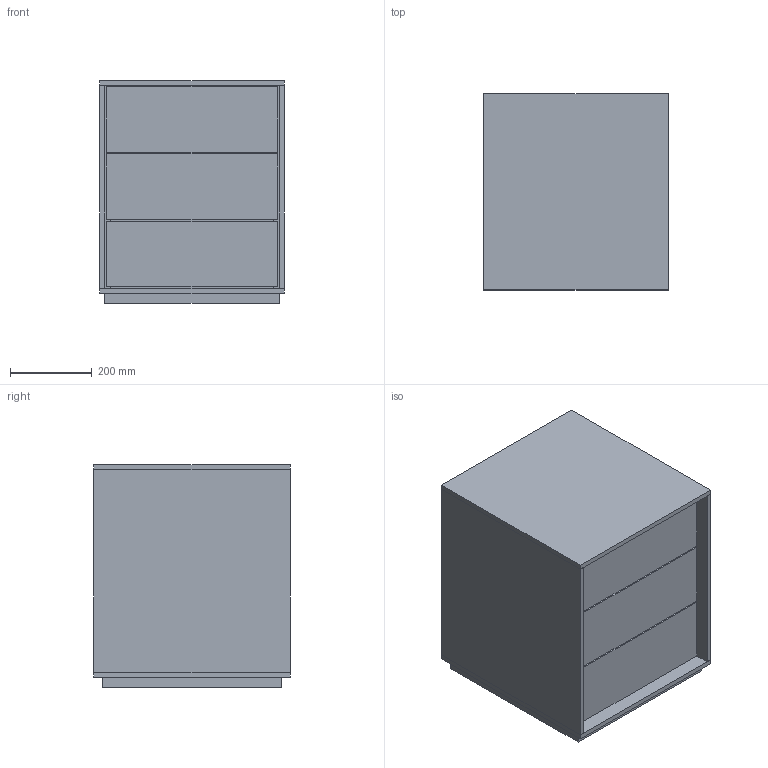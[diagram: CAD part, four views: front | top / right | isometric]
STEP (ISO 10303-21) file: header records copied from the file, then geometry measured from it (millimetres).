
FILE_DESCRIPTION(/* description */ (''),/* implementation_level */ '2;1');
FILE_NAME(/* name */ 'C01 - Luminare Cassettiera 3 cassetti',/* time_stamp */ '2010-12-10T10:59:28+01:00',/* author */ (''),/* organization */ (''),/* preprocessor_version */ 'ST-DEVELOPER v10',/* originating_system */ '',/* authorisation */ '');
FILE_SCHEMA (('CONFIG_CONTROL_DESIGN'));
Length unit declared in the file: centimetre
Products named in the file (1): 1
Bounding box: 450 x 480 x 545 mm (x, y, z)
Volume: 30100116 mm3; surface area: 4820396 mm2
Topology: 13 solids, 13 shells, 78 faces, 156 edges, 104 vertices
Faces by surface type: plane 78
Entity records: 1848 total; most frequent: CARTESIAN_POINT 536, ORIENTED_EDGE 312, EDGE_CURVE 156, B_SPLINE_CURVE_WITH_KNOTS 156, VERTEX_POINT 104, DIRECTION 82, AXIS2_PLACEMENT_3D 80, ADVANCED_FACE 78
